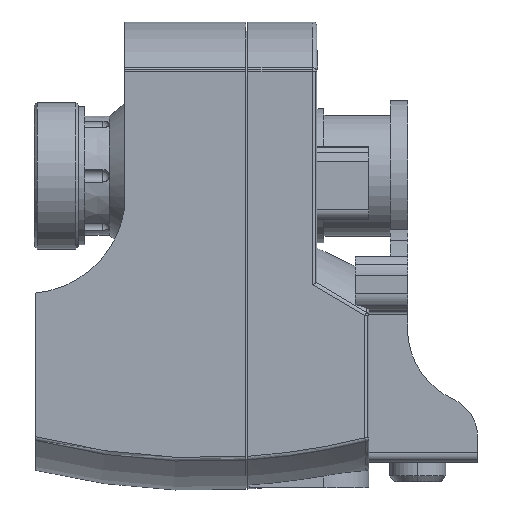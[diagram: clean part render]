
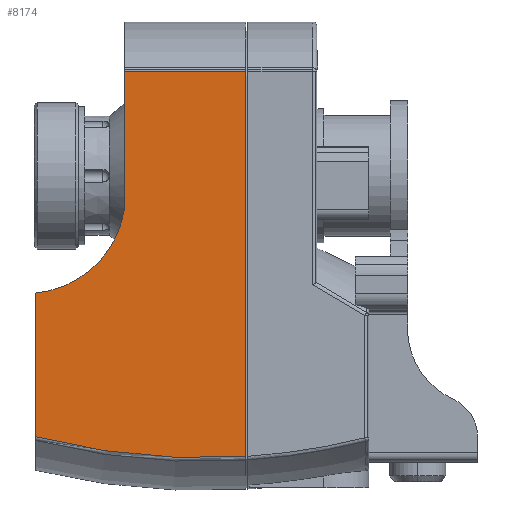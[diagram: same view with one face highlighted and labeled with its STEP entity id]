
A CAD part, left-side view. The second image highlights one B-rep face of the part: STEP entity #8174.
In plain terms, the highlighted planar face has unit normal (-1, 0, 0).
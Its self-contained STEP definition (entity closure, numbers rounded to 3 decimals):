
#7677=CARTESIAN_POINT('',(-29.,-12.973,-22.881));
#7678=VERTEX_POINT('',#7677);
#7687=CARTESIAN_POINT('',(-29.,-21.586,-7.828));
#7688=VERTEX_POINT('',#7687);
#7689=CARTESIAN_POINT('',(-29.,1.977,-4.335));
#7690=DIRECTION('',(1.,0.,0.));
#7691=DIRECTION('',(0.,-0.628,-0.779));
#7692=AXIS2_PLACEMENT_3D('',#7689,#7690,#7691);
#7693=CIRCLE('',#7692,23.821);
#7694=EDGE_CURVE('',#7688,#7678,#7693,.T.);
#7837=CARTESIAN_POINT('',(-29.,-21.586,25.035));
#7838=VERTEX_POINT('',#7837);
#7846=CARTESIAN_POINT('',(-29.,-50.591,25.035));
#7847=VERTEX_POINT('',#7846);
#7848=CARTESIAN_POINT('',(-29.,-21.586,25.035));
#7849=DIRECTION('',(0.0,-1.0,0.0));
#7850=VECTOR('',#7849,29.005);
#7851=LINE('',#7848,#7850);
#7852=EDGE_CURVE('',#7838,#7847,#7851,.T.);
#7894=CARTESIAN_POINT('',(-29.,-50.591,-67.097));
#7895=VERTEX_POINT('',#7894);
#7896=CARTESIAN_POINT('',(-29.,-50.591,25.035));
#7897=DIRECTION('',(0.0,0.0,-1.0));
#7898=VECTOR('',#7897,92.132);
#7899=LINE('',#7896,#7898);
#7900=EDGE_CURVE('',#7847,#7895,#7899,.T.);
#8112=CARTESIAN_POINT('',(-29.,-0.3,-62.359));
#8113=VERTEX_POINT('',#8112);
#8114=CARTESIAN_POINT('',(-29.,-40.206,91.944));
#8115=DIRECTION('',(1.0,0.,0.));
#8116=DIRECTION('',(0.,0.093,-0.996));
#8117=AXIS2_PLACEMENT_3D('',#8114,#8115,#8116);
#8118=CIRCLE('',#8117,159.379);
#8119=EDGE_CURVE('',#7895,#8113,#8118,.T.);
#8142=CARTESIAN_POINT('',(-29.,8.034,-62.756));
#8143=DIRECTION('',(-1.0,0.0,0.0));
#8144=DIRECTION('',(0.0,1.0,0.0));
#8145=AXIS2_PLACEMENT_3D('',#8142,#8143,#8144);
#8146=PLANE('',#8145);
#8147=ORIENTED_EDGE('',*,*,#7852,.F.);
#8148=CARTESIAN_POINT('',(-29.,-21.586,25.035));
#8149=DIRECTION('',(0.0,0.0,-1.0));
#8150=VECTOR('',#8149,32.863);
#8151=LINE('',#8148,#8150);
#8152=EDGE_CURVE('',#7838,#7688,#8151,.T.);
#8153=ORIENTED_EDGE('',*,*,#8152,.T.);
#8154=ORIENTED_EDGE('',*,*,#7694,.T.);
#8155=CARTESIAN_POINT('',(-29.,-0.3,-28.047));
#8156=VERTEX_POINT('',#8155);
#8157=CARTESIAN_POINT('',(-29.,1.977,-4.335));
#8158=DIRECTION('',(1.,0.,0.));
#8159=DIRECTION('',(0.,-0.628,-0.779));
#8160=AXIS2_PLACEMENT_3D('',#8157,#8158,#8159);
#8161=CIRCLE('',#8160,23.821);
#8162=EDGE_CURVE('',#7678,#8156,#8161,.T.);
#8163=ORIENTED_EDGE('',*,*,#8162,.T.);
#8164=CARTESIAN_POINT('',(-29.,-0.3,-62.359));
#8165=DIRECTION('',(0.0,0.0,1.0));
#8166=VECTOR('',#8165,34.311);
#8167=LINE('',#8164,#8166);
#8168=EDGE_CURVE('',#8113,#8156,#8167,.T.);
#8169=ORIENTED_EDGE('',*,*,#8168,.F.);
#8170=ORIENTED_EDGE('',*,*,#8119,.F.);
#8171=ORIENTED_EDGE('',*,*,#7900,.F.);
#8172=EDGE_LOOP('',(#8147,#8153,#8154,#8163,#8169,#8170,#8171));
#8173=FACE_OUTER_BOUND('',#8172,.T.);
#8174=ADVANCED_FACE('',(#8173),#8146,.T.);
